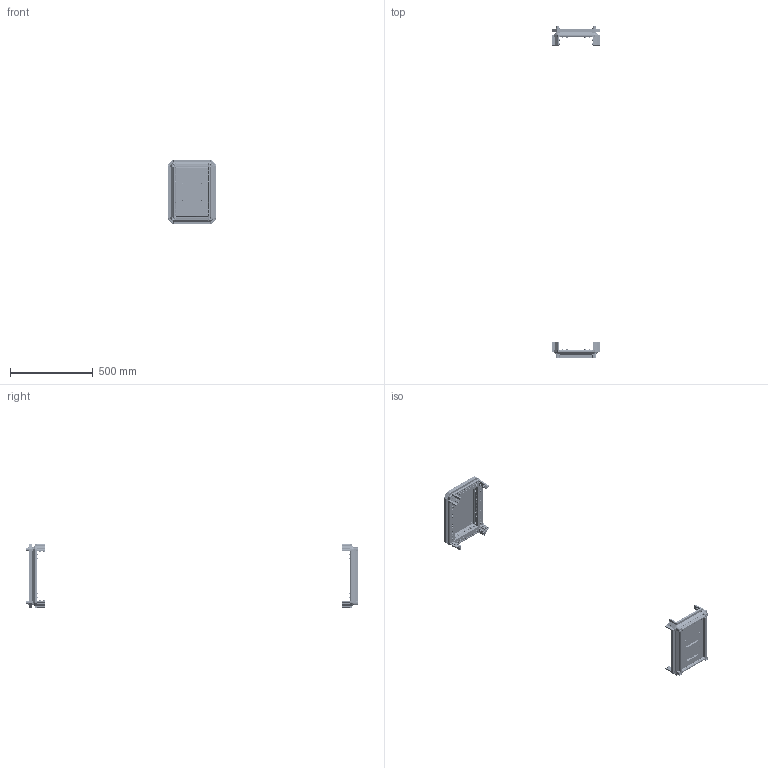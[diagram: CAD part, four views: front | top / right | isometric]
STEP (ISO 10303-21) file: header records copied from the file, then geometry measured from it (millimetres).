
FILE_DESCRIPTION (( 'STEP AP203' ), '1' );
FILE_NAME ('MA1.101.030420.00.00 AleSta-RB34 Êîìïëåêò êðûøà è îñíîâàíèå.STEP', '2025-02-19T13:51:03', ( '' ), ( '' ), 'SwSTEP 2.0', 'SolidWorks 2021', '' );
FILE_SCHEMA (( 'CONFIG_CONTROL_DESIGN' ));
Length unit declared in the file: millimetre
Products named in the file (19): MA1.101.060620.00.02 Ïðîôèëü ïîïåðå÷íûé ñâàðíîé_00 L=298 (˜=400); MA1.101.060620.10.01 Ïîëîòíî êðûøè 600õ600_300x400; ﾘ琺矜 65ﾃ 019 ﾃﾎﾑﾒ 6402-70_12; Âèíò ñ âí. øåñòèãðàííèêîì M12 DIN912_•30; MA1.100.060620.00.01 Ñîåäèíèòåëü óãëîâîé_00; ﾇﾀﾊﾋﾅﾏﾊﾀ ﾃﾀﾅﾗﾍﾀﾟ ﾘﾅﾑﾒﾈﾃﾐﾀﾍﾍﾀﾟ ﾑ ﾓﾌﾅﾍﾜﾘﾅﾍﾍﾛﾌ ﾁﾎﾐﾒﾎﾌ M4 X 11 (0.5-2.5 ﾌﾌ) HEX U-S ﾖﾈﾍﾊ; Óïëîòíèòåëü ïàíåëè íèæíåé_300å400; 7380-2 ISO Âèíòû ñ ïîëóêðóãëîé ãîëîâêîé ñ ôëàíöåì ñ âíóòðåííèì øåñòèãðàííèêîì Ì4õ10; Øàéáà ñòîïîðíàÿ ñ íàðóæíûìè çóáöàìè SCHNORR, òèï VS öèíêîâûå õëîïüÿ Ì6 O6,4 ART 88121_Œ6; MA1.101.060620.20.00 Íèæíÿÿ ïàíåëü 600õ600_300å400; ﾘ琺矜 01.019 ﾃﾎﾑﾒ11371-78_12; MA1.101.060620.20.02 Çàêðûòèå íèæíåé ïàíåëè 600õ600_300å400; Âèíò ðåçüáîâûäàâëèâàþùèé Ì6õ12 DIN 7500E_Œ6å10; MA1.101.030420.00.00 AleSta-RB34 Êîìïëåêò êðûøà è îñíîâàíèå; MA1.101.060620.10.00 Êðûøà 600x600_300å400; MA1.101.060620.00.02 Ïðîôèëü ïîïåðå÷íûé ñâàðíîé_03 L=198 (˜=300); MA1.101.060620.20.01 Ïîëîòíî íèæíåé ïàíåëè 600õ600_300å400; Âèíò_ðåçüáîâûäàâëèâàþùèé_Ì5õ12_DIN 7500E_Œ5å12; Øïèëüêà Ì6õ12_˜¯¨«ìª  Œ6å12
Assembly tree (215 placements, depth 3):
  MA1.101.030420.00.00 AleSta-RB34 Êîìïëåêò êðûøà è îñíîâàíèå
    MA1.101.060620.00.02 Ïðîôèëü ïîïåðå÷íûé ñâàðíîé_03 L=198 (˜=300)  x4
    MA1.101.060620.00.02 Ïðîôèëü ïîïåðå÷íûé ñâàðíîé_00 L=298 (˜=400)  x4
    MA1.101.060620.10.00 Êðûøà 600x600_300å400
      MA1.101.060620.10.01 Ïîëîòíî êðûøè 600õ600_300x400
      Øïèëüêà Ì6õ12_˜¯¨«ìª  Œ6å12  x4
      Óïëîòíèòåëü ïàíåëè íèæíåé_300å400
    MA1.101.060620.20.00 Íèæíÿÿ ïàíåëü 600õ600_300å400
      MA1.101.060620.20.01 Ïîëîòíî íèæíåé ïàíåëè 600õ600_300å400
      ﾇﾀﾊﾋﾅﾏﾊﾀ ﾃﾀﾅﾗﾍﾀﾟ ﾘﾅﾑﾒﾈﾃﾐﾀﾍﾍﾀﾟ ﾑ ﾓﾌﾅﾍﾜﾘﾅﾍﾍﾛﾌ ﾁﾎﾐﾒﾎﾌ M4 X 11 (0.5-2.5 ﾌﾌ) HEX U-S ﾖﾈﾍﾊ  x4
      MA1.101.060620.20.02 Çàêðûòèå íèæíåé ïàíåëè 600õ600_300å400  x2
      7380-2 ISO Âèíòû ñ ïîëóêðóãëîé ãîëîâêîé ñ ôëàíöåì ñ âíóòðåííèì øåñòèãðàííèêîì Ì4õ10  x4
    Âèíò_ðåçüáîâûäàâëèâàþùèé_Ì5õ12_DIN 7500E_Œ5å12  x8
    MA1.100.060620.00.01 Ñîåäèíèòåëü óãëîâîé_00  x8
    Âèíò ñ âí. øåñòèãðàííèêîì M12 DIN912_•30  x4
    Âèíò ðåçüáîâûäàâëèâàþùèé Ì6õ12 DIN 7500E_Œ6å10  x80
    ﾘ琺矜 01.019 ﾃﾎﾑﾒ11371-78_12  x4
    ﾘ琺矜 65ﾃ 019 ﾃﾎﾑﾒ 6402-70_12  x4
    Øàéáà ñòîïîðíàÿ ñ íàðóæíûìè çóáöàìè SCHNORR, òèï VS öèíêîâûå õëîïüÿ Ì6 O6,4 ART 88121_Œ6  x80
Bounding box: 292 x 2010.9 x 392 mm (x, y, z)
Volume: 2035328 mm3; surface area: 1525057.9 mm2
Topology: 213 solids, 213 shells, 10854 faces, 27688 edges, 17264 vertices
Faces by surface type: plane 8030, cylinder 2008, cone 520, bspline 248, torus 48
Entity records: 53016 total; most frequent: CARTESIAN_POINT 11323, DIRECTION 7154, ORIENTED_EDGE 6942, EDGE_CURVE 3471, LINE 2546, VECTOR 2546, AXIS2_PLACEMENT_3D 2304, VERTEX_POINT 2071
